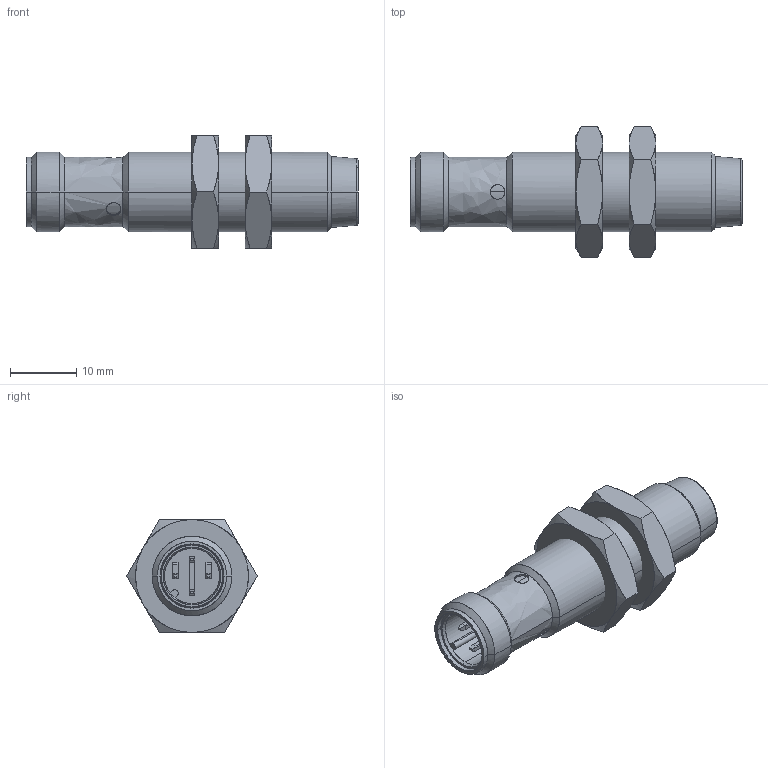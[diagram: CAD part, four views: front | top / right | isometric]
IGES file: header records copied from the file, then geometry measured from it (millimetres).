
Start section: Comment
Global section: file name: IFRM 12xx3G3_S14L.igs; native system:  By Spatial Corp.; preprocessor: XPlus GENERIC/IGES 3.0; author: Author; organization: Title; date: 20060328.155734; units: inch
Bounding box: 50 x 19.63 x 17 mm (x, y, z)
Surface area: 3752.3 mm2 (no closed solid volume)
Topology: 0 solids, 0 shells, 173 faces, 846 edges, 846 vertices
Faces by surface type: bspline 173
